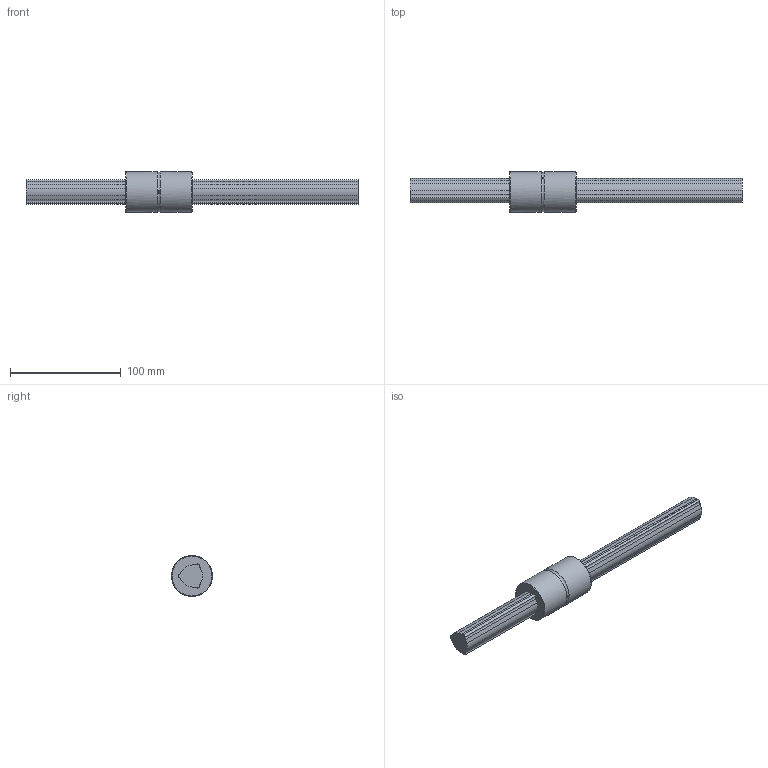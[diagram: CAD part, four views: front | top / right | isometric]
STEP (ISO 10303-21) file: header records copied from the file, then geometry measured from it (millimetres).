
FILE_DESCRIPTION(/* description */ ('STEP AP214'),/* implementation_level */ '2;1');
FILE_NAME(/* name */ 'LBS25+300L(60900)',/* time_stamp */ '2024-09-04T12:48:16+02:00',/* author */ ('License CC BY-ND 4.0'),/* organization */ ('CADENAS'),/* preprocessor_version */ 'ST-DEVELOPER v19.3',/* originating_system */ 'PARTsolutions',/* authorisation */ ' ');
FILE_SCHEMA (('AUTOMOTIVE_DESIGN {1 0 10303 214 3 1 1}'));
Length unit declared in the file: millimetre
Products named in the file (3): LBS25+300L(60900); LBS25 Nut; LBS251300 Spline Shaft
Assembly tree (2 placements, depth 2):
  LBS25+300L(60900)
    LBS25 Nut
    LBS251300 Spline Shaft
Bounding box: 300 x 37 x 37 mm (x, y, z)
Volume: 144168.9 mm3; surface area: 35087.4 mm2
Topology: 2 solids, 2 shells, 56 faces, 148 edges, 99 vertices
Faces by surface type: cylinder 31, plane 22, torus 3
Full cylindrical faces by diameter (mm): 2 x3, 37 x2
Entity records: 1798 total; most frequent: CARTESIAN_POINT 343, DIRECTION 306, ORIENTED_EDGE 272, EDGE_CURVE 136, AXIS2_PLACEMENT_3D 118, VERTEX_POINT 94, LINE 70, VECTOR 70
